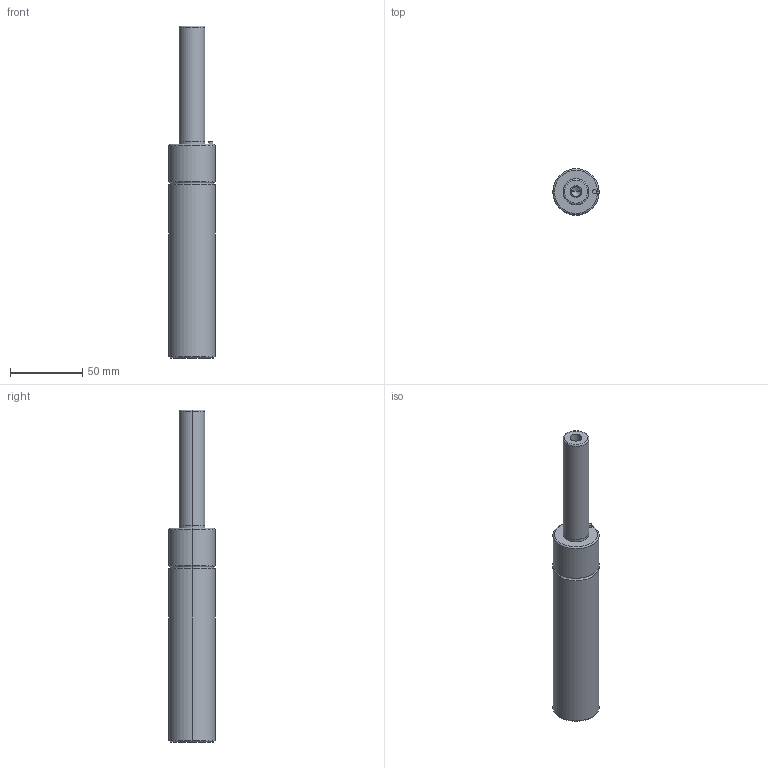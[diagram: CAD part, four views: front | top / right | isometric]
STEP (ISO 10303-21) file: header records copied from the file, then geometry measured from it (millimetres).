
FILE_DESCRIPTION(/* description */ (''),/* implementation_level */ '2;1');
FILE_NAME(/* name */ '3d_gsm32-80_03898_r00.stp',/* time_stamp */ '2011-01-10T14:15:16+09:00',/* author */ ('MISUMI'),/* organization */ (''),/* preprocessor_version */ 'ST-DEVELOPER v11',/* originating_system */ 'UGS - NX 5.0',/* authorisation */ '');
FILE_SCHEMA (('CONFIG_CONTROL_DESIGN'));
Length unit declared in the file: millimetre
Products named in the file (1): 3d_gsm32-80_03898_r00
Bounding box: 32 x 32 x 230 mm (x, y, z)
Volume: 138265.9 mm3; surface area: 21981.6 mm2
Topology: 1 solids, 1 shells, 50 faces, 106 edges, 60 vertices
Faces by surface type: cylinder 26, cone 10, plane 8, torus 6
Entity records: 1382 total; most frequent: DIRECTION 262, CARTESIAN_POINT 209, ORIENTED_EDGE 196, AXIS2_PLACEMENT_3D 113, EDGE_CURVE 98, CIRCLE 62, EDGE_LOOP 60, VERTEX_POINT 60
